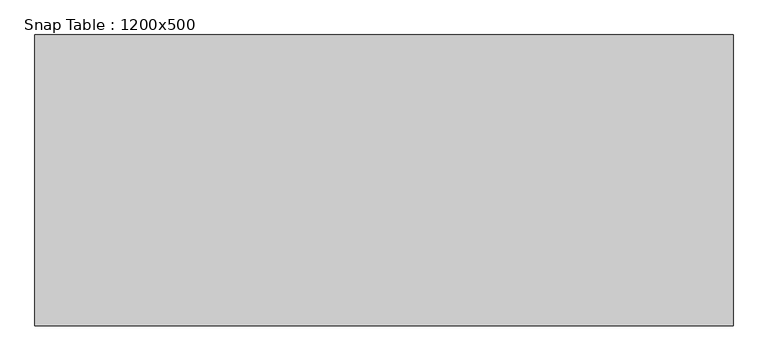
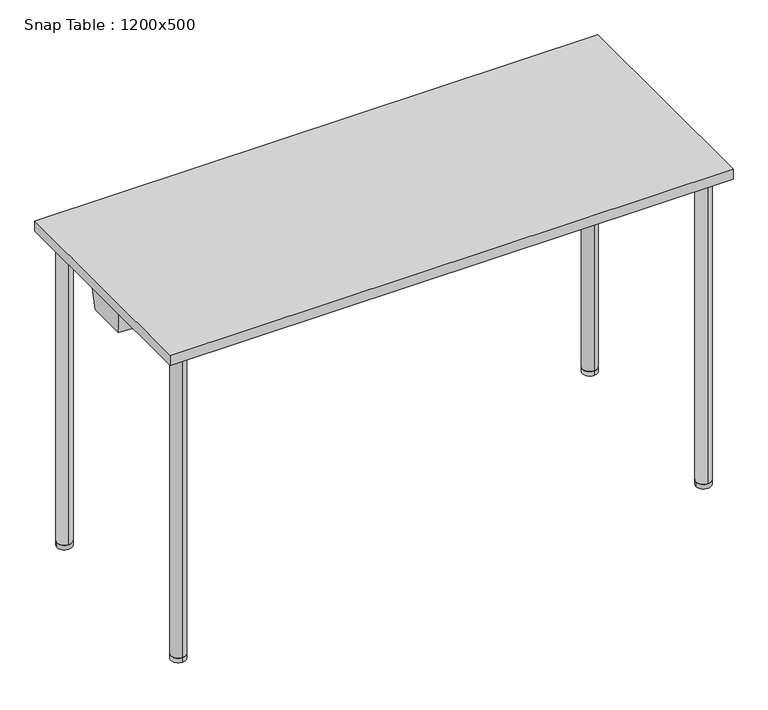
"""IFC4 building model written with IfcOpenShell, lengths in millimetres: furniture geometry, Snap Table : 1200x500."""

from ifc_helpers import new_model, si_unit, point, frame, frame_2d, origin, origin_with_axes, place, context, project, spatial, polyline, circle_curve, ellipse_curve, trimmed, segment, composite_curve, outline, extrude, faceted_brep, source, transform, mapped, element, save
from ifc_brep_helpers import plane_surface, cylinder_surface, revolved_surface, advanced_brep


def snap_table_1200x500_a2f1ae12(model_context):
    return source(origin(), model_context, "Body", "SolidModel", [
        extrude(outline(composite_curve([segment(trimmed(circle_curve(frame_2d((560.0, -210.0)), 16.0), [point((576.0, -210.0))], [point((544.0, -210.0))], False, "CARTESIAN"), True, "CONTINUOUS"), segment(trimmed(circle_curve(frame_2d((560.0, -210.0)), 16.0), [point((544.0, -210.0))], [point((576.0, -210.0))], False, "CARTESIAN"), True, "CONTINUOUS")], self_intersect=False)), origin_with_axes(), (0.0, 0.0, 1.0), 10.0),
        extrude(outline(composite_curve([segment(trimmed(circle_curve(frame_2d((560.0, 210.0)), 16.0), [point((560.0, 194.0))], [point((560.0, 226.0))], False, "CARTESIAN"), True, "CONTINUOUS"), segment(trimmed(circle_curve(frame_2d((560.0, 210.0)), 16.0), [point((560.0, 226.0))], [point((560.0, 194.0))], False, "CARTESIAN"), True, "CONTINUOUS")], self_intersect=False)), origin_with_axes(), (0.0, 0.0, 1.0), 10.0),
        advanced_brep(
        [(560.0, -226.0, 10.0), (560.0, -194.0, 10.0), (560.0, -226.0, 689.0), (560.0, -194.0, 657.0), (560.0, 226.0, 689.0), (560.0, 194.0, 657.0), (560.0, 226.0, 10.0), (560.0, 194.0, 10.0)],
        [
            (0, 1, circle_curve(frame((560.0, -210.0, 10.0), z_axis=(0.0, 0.0, -1.0), x_axis=(0.0, 1.0, 0.0)), 16.0)),
            (1, 0, circle_curve(frame((560.0, -210.0, 10.0), z_axis=(0.0, 0.0, -1.0), x_axis=(0.0, 1.0, 0.0)), 16.0)),
            (0, 2),
            (2, 3, ellipse_curve(frame((560.0, -210.0, 673.0), z_axis=(0.0, -0.7071067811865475, -0.7071067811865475), x_axis=(0.0, 0.7071067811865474, -0.7071067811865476)), 22.627417, 16.0)),
            (3, 1),
            (3, 2, ellipse_curve(frame((560.0, -210.0, 673.0), z_axis=(0.0, -0.7071067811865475, -0.7071067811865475), x_axis=(0.0, 0.7071067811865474, -0.7071067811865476)), 22.627417, 16.0)),
            (2, 4),
            (4, 5, ellipse_curve(frame((560.0, 210.0, 673.0), z_axis=(0.0, -0.7071067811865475, 0.7071067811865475), x_axis=(0.0, -0.7071067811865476, -0.7071067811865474)), 22.627417, 16.0)),
            (5, 3),
            (5, 4, ellipse_curve(frame((560.0, 210.0, 673.0), z_axis=(0.0, -0.7071067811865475, 0.7071067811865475), x_axis=(0.0, -0.7071067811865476, -0.7071067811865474)), 22.627417, 16.0)),
            (6, 7, circle_curve(frame((560.0, 210.0, 10.0), z_axis=(0.0, 0.0, -1.0), x_axis=(0.0, -1.0, 0.0)), 16.0)),
            (7, 6, circle_curve(frame((560.0, 210.0, 10.0), z_axis=(0.0, 0.0, -1.0), x_axis=(0.0, -1.0, 0.0)), 16.0)),
            (4, 6),
            (7, 5),
        ],
        [
            plane_surface(frame((560.0, -210.0, 10.0), z_axis=(0.0, 0.0, -1.0), x_axis=(-1.0, 0.0, 0.0))),
            cylinder_surface(frame((560.0, -210.0, 10.0), z_axis=(0.0, 0.0, -1.0), x_axis=(0.0, 1.0, 0.0)), 16.0),
            cylinder_surface(frame((560.0, -210.0, 673.0), z_axis=(0.0, -1.0, 0.0), x_axis=(0.0, 0.0, -1.0)), 16.0),
            plane_surface(frame((560.0, 210.0, 10.0), z_axis=(0.0, 0.0, -1.0), x_axis=(-1.0, 0.0, 0.0))),
            cylinder_surface(frame((560.0, 210.0, 673.0), z_axis=(0.0, 0.0, 1.0), x_axis=(0.0, -1.0, 0.0)), 16.0),
        ],
        [
            (0, [[1, 2]]),
            (1, [[-1, 3, 4, 5]]),
            (1, [[-2, -5, 6, -3]]),
            (2, [[-4, 7, 8, 9]]),
            (2, [[-6, -9, 10, -7]]),
            (3, [[11, 12]]),
            (4, [[-8, 13, -12, 14]]),
            (4, [[-10, -14, -11, -13]]),
        ],
    ),
        extrude(outline(composite_curve([segment(trimmed(circle_curve(frame_2d((-560.0470276, 210.0)), 16.0), [point((-576.0470276, 210.0))], [point((-544.0470276, 210.0))], False, "CARTESIAN"), True, "CONTINUOUS"), segment(trimmed(circle_curve(frame_2d((-560.0470276, 210.0)), 16.0), [point((-544.0470276, 210.0))], [point((-576.0470276, 210.0))], False, "CARTESIAN"), True, "CONTINUOUS")], self_intersect=False)), origin_with_axes(), (0.0, 0.0, 1.0), 10.0),
        extrude(outline(composite_curve([segment(trimmed(circle_curve(frame_2d((-560.0470276, -210.0)), 16.0), [point((-560.0470276, -194.0))], [point((-560.0470276, -226.0))], False, "CARTESIAN"), True, "CONTINUOUS"), segment(trimmed(circle_curve(frame_2d((-560.0470276, -210.0)), 16.0), [point((-560.0470276, -226.0))], [point((-560.0470276, -194.0))], False, "CARTESIAN"), True, "CONTINUOUS")], self_intersect=False)), origin_with_axes(), (0.0, 0.0, 1.0), 10.0),
        advanced_brep(
        [(-560.0470276, 226.0, 10.0), (-560.0470276, 194.0, 10.0), (-560.0470276, 226.0, 689.0), (-560.0470276, 194.0, 657.0), (-560.0470276, -226.0, 689.0), (-560.0470276, -194.0, 657.0), (-560.0470276, -226.0, 10.0), (-560.0470276, -194.0, 10.0)],
        [
            (0, 1, circle_curve(frame((-560.0470276, 210.0, 10.0), z_axis=(0.0, 0.0, -1.0), x_axis=(0.0, -1.0, 0.0)), 16.0)),
            (1, 0, circle_curve(frame((-560.0470276, 210.0, 10.0), z_axis=(0.0, 0.0, -1.0), x_axis=(0.0, -1.0, 0.0)), 16.0)),
            (0, 2),
            (2, 3, ellipse_curve(frame((-560.0470276, 210.0, 673.0), z_axis=(0.0, 0.7071067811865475, -0.7071067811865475), x_axis=(0.0, -0.7071067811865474, -0.7071067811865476)), 22.627417, 16.0)),
            (3, 1),
            (3, 2, ellipse_curve(frame((-560.0470276, 210.0, 673.0), z_axis=(0.0, 0.7071067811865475, -0.7071067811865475), x_axis=(0.0, -0.7071067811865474, -0.7071067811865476)), 22.627417, 16.0)),
            (2, 4),
            (4, 5, ellipse_curve(frame((-560.0470276, -210.0, 673.0), z_axis=(0.0, 0.7071067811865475, 0.7071067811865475), x_axis=(0.0, 0.7071067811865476, -0.7071067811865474)), 22.627417, 16.0)),
            (5, 3),
            (5, 4, ellipse_curve(frame((-560.0470276, -210.0, 673.0), z_axis=(0.0, 0.7071067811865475, 0.7071067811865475), x_axis=(0.0, 0.7071067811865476, -0.7071067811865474)), 22.627417, 16.0)),
            (6, 7, circle_curve(frame((-560.0470276, -210.0, 10.0), z_axis=(0.0, 0.0, -1.0), x_axis=(0.0, 1.0, 0.0)), 16.0)),
            (7, 6, circle_curve(frame((-560.0470276, -210.0, 10.0), z_axis=(0.0, 0.0, -1.0), x_axis=(0.0, 1.0, 0.0)), 16.0)),
            (4, 6),
            (7, 5),
        ],
        [
            plane_surface(frame((-560.0470276, 210.0, 10.0), z_axis=(0.0, 0.0, -1.0), x_axis=(1.0, 0.0, 0.0))),
            cylinder_surface(frame((-560.0470276, 210.0, 10.0), z_axis=(0.0, 0.0, -1.0), x_axis=(0.0, -1.0, 0.0)), 16.0),
            cylinder_surface(frame((-560.0470276, 210.0, 673.0), z_axis=(0.0, 1.0, 0.0), x_axis=(0.0, 0.0, -1.0)), 16.0),
            plane_surface(frame((-560.0470276, -210.0, 10.0), z_axis=(0.0, 0.0, -1.0), x_axis=(1.0, 0.0, 0.0))),
            cylinder_surface(frame((-560.0470276, -210.0, 673.0), z_axis=(0.0, 0.0, 1.0), x_axis=(0.0, 1.0, 0.0)), 16.0),
        ],
        [
            (0, [[1, 2]]),
            (1, [[-1, 3, 4, 5]]),
            (1, [[-2, -5, 6, -3]]),
            (2, [[-4, 7, 8, 9]]),
            (2, [[-6, -9, 10, -7]]),
            (3, [[11, 12]]),
            (4, [[-8, 13, -12, 14]]),
            (4, [[-10, -14, -11, -13]]),
        ],
    ),
        extrude(outline(polyline([(600.0, 250.0), (600.0, -250.0), (-600.0, -250.0), (-600.0, 250.0), (600.0, 250.0)])), frame((0.0, 0.0, 698.0), z_axis=(0.0, 0.0, 1.0), x_axis=(1.0, 0.0, 0.0)), (0.0, 0.0, 1.0), 22.0),
        advanced_brep(
        [(-590.8110657, 42.2236058, 643.0), (-557.6910354, 44.5767873, 643.0), (-540.5708933, 36.0824003, 643.0), (540.5710292, 36.0824678, 643.0), (557.6910354, 44.5767873, 643.0), (590.8110657, 42.2236058, 643.0), (590.8110657, -42.2236058, 643.0), (557.6044607, -44.2417031, 643.0), (540.4018781, -36.0497649, 643.0), (-540.4020196, -36.0498323, 643.0), (-557.6044607, -44.2417031, 643.0), (-590.8110657, -42.2236058, 643.0), (-594.8110657, 48.9570516, 698.0), (-594.8110657, -48.9934252, 698.0), (-556.225892, -51.3383995, 698.0), (-534.6205129, -41.049832, 698.0), (534.6203726, -41.0497653, 698.0), (556.225892, -51.3383995, 698.0), (594.8110657, -48.9934252, 698.0), (594.8110657, 48.9570516, 698.0), (556.286594, 51.6942192, 698.0), (534.8989768, 41.0824675, 698.0), (-534.8988421, 41.0824007, 698.0), (-556.286594, 51.6942192, 698.0), (-557.2475737, -46.0789118, 657.2385232), (-576.0, -46.9489596, 673.0), (-556.4614069, -50.125999, 688.6037931), (-544.0, -41.9922101, 673.0), (557.2475737, -46.0789118, 657.2385232), (544.0, -41.9922101, 673.0), (556.4614069, -50.125999, 688.6037931), (576.0, -46.9489596, 673.0), (557.3278029, 46.4175782, 657.2247231), (576.0, 47.1037405, 673.0), (556.5261576, 50.4801582, 688.618336), (544.0, 42.0461233, 673.0), (-557.3278029, 46.4175782, 657.2247231), (-544.0, 42.0461233, 673.0), (-556.5261576, 50.4801582, 688.618336), (-576.0, 47.1037405, 673.0)],
        [
            (0, 1),
            (1, 2),
            (2, 3),
            (3, 4),
            (4, 5),
            (5, 6),
            (6, 7),
            (7, 8),
            (8, 9),
            (9, 10),
            (10, 11),
            (11, 0),
            (12, 13),
            (13, 14),
            (14, 15),
            (15, 16),
            (16, 17),
            (17, 18),
            (18, 19),
            (19, 20),
            (20, 21),
            (21, 22),
            (22, 23),
            (23, 12),
            (11, 13),
            (12, 0),
            (10, 24),
            (24, 25, ellipse_curve(frame((-560.0, -47.9213432, 673.0), z_axis=(0.060176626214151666, 0.9901710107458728, 0.12625427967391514), x_axis=(0.42602826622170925, -0.13986196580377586, 0.893833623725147)), 16.1588249, 16.0)),
            (25, 26, ellipse_curve(frame((-560.0, -47.9213432, 673.0), z_axis=(0.060176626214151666, 0.9901710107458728, 0.12625427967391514), x_axis=(0.42602826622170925, -0.13986196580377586, 0.893833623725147)), 16.1588249, 16.0)),
            (26, 14),
            (9, 15),
            (26, 27, ellipse_curve(frame((-560.0, -49.6114737, 673.0), z_axis=(-0.426503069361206, 0.895631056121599, 0.1262542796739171), x_axis=(-0.8587935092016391, -0.4447977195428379, 0.2542217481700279)), 17.8644989, 16.0)),
            (27, 24, ellipse_curve(frame((-560.0, -49.6114737, 673.0), z_axis=(-0.426503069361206, 0.895631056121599, 0.1262542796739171), x_axis=(-0.8587935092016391, -0.4447977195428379, 0.2542217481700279)), 17.8644989, 16.0)),
            (8, 16),
            (7, 28),
            (28, 29, ellipse_curve(frame((560.0, -49.6114737, 673.0), z_axis=(0.42650306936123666, 0.8956310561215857, 0.1262542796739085), x_axis=(0.858793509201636, -0.4447977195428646, 0.2542217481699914)), 17.8644989, 16.0)),
            (29, 30, ellipse_curve(frame((560.0, -49.6114737, 673.0), z_axis=(0.42650306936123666, 0.8956310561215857, 0.1262542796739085), x_axis=(0.858793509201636, -0.4447977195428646, 0.2542217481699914)), 17.8644989, 16.0)),
            (30, 17),
            (6, 18),
            (30, 31, ellipse_curve(frame((560.0, -47.9213432, 673.0), z_axis=(-0.06017662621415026, 0.9901710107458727, 0.1262542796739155), x_axis=(-0.4260282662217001, -0.13986196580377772, 0.8938336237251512)), 16.1588249, 16.0)),
            (31, 28, ellipse_curve(frame((560.0, -47.9213432, 673.0), z_axis=(-0.06017662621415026, 0.9901710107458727, 0.1262542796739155), x_axis=(-0.4260282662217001, -0.13986196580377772, 0.8938336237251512)), 16.1588249, 16.0)),
            (5, 19),
            (4, 32),
            (32, 33, ellipse_curve(frame((560.0, 48.2405422, 673.0), z_axis=(-0.07030432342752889, -0.9895034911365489, 0.1262542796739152), x_axis=(0.48139832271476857, -0.14450896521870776, -0.8645072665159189)), 16.1697257, 16.0)),
            (33, 34, ellipse_curve(frame((560.0, 48.2405422, 673.0), z_axis=(-0.07030432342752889, -0.9895034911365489, 0.1262542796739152), x_axis=(0.48139832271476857, -0.14450896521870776, -0.8645072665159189)), 16.1697257, 16.0)),
            (34, 20),
            (3, 21),
            (34, 35, ellipse_curve(frame((560.0, 49.9847369, 673.0), z_axis=(0.44090536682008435, -0.8886294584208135, 0.12625427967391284), x_axis=(-0.8542943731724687, -0.45862586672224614, -0.24462918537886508)), 18.005255, 16.0)),
            (35, 32, ellipse_curve(frame((560.0, 49.9847369, 673.0), z_axis=(0.44090536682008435, -0.8886294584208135, 0.12625427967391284), x_axis=(-0.8542943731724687, -0.45862586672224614, -0.24462918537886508)), 18.005255, 16.0)),
            (2, 22),
            (1, 36),
            (36, 37, ellipse_curve(frame((-560.0, 49.9847369, 673.0), z_axis=(-0.4409053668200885, -0.8886294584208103, 0.12625427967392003), x_axis=(0.8542943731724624, -0.45862586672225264, -0.24462918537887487)), 18.005255, 16.0)),
            (37, 38, ellipse_curve(frame((-560.0, 49.9847369, 673.0), z_axis=(-0.4409053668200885, -0.8886294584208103, 0.12625427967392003), x_axis=(0.8542943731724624, -0.45862586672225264, -0.24462918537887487)), 18.005255, 16.0)),
            (38, 23),
            (38, 39, ellipse_curve(frame((-560.0, 48.2405422, 673.0), z_axis=(0.07030432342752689, -0.9895034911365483, 0.1262542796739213), x_axis=(-0.48139832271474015, -0.1445089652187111, -0.8645072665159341)), 16.1697257, 16.0)),
            (39, 36, ellipse_curve(frame((-560.0, 48.2405422, 673.0), z_axis=(0.07030432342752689, -0.9895034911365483, 0.1262542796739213), x_axis=(-0.48139832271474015, -0.1445089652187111, -0.8645072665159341)), 16.1697257, 16.0)),
            (35, 29),
            (31, 33),
            (39, 25),
            (27, 37),
        ],
        [
            plane_surface(frame((-5e-07, 0.0612866, 643.0), z_axis=(0.0, 0.0, -1.0), x_axis=(0.0, -1.0, 0.0))),
            plane_surface(frame((-5e-07, 0.0586803, 698.0), z_axis=(0.0, 0.0, 1.0), x_axis=(0.0, -1.0, 0.0))),
            plane_surface(frame((-594.8110657, -0.0181868, 698.0), z_axis=(-0.9973658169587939, 0.0, -0.07253569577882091), x_axis=(0.0, 1.0, 0.0))),
            plane_surface(frame((-575.5184789, -50.1659123, 698.0), z_axis=(-0.060176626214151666, -0.9901710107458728, -0.12625427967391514), x_axis=(-0.9981583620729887, 0.06066204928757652, 0.0))),
            plane_surface(frame((-545.4232025, -46.1941158, 698.0), z_axis=(0.426503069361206, -0.895631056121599, -0.1262542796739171), x_axis=(-0.9028557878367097, -0.4299435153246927, 0.0))),
            plane_surface(frame((-7.01e-05, -41.0497986, 698.0), z_axis=(6.211245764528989e-08, -0.9958932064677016, -0.09053574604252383), x_axis=(-0.9999999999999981, -6.236859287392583e-08, 0.0))),
            plane_surface(frame((545.4231323, -46.1940824, 698.0), z_axis=(-0.42650306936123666, -0.8956310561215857, -0.1262542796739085), x_axis=(-0.9028557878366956, 0.4299435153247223, 0.0))),
            plane_surface(frame((575.5184789, -50.1659123, 698.0), z_axis=(0.06017662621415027, -0.9901710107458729, -0.12625427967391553), x_axis=(-0.9981583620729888, -0.060662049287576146, 0.0))),
            plane_surface(frame((594.8110657, -0.0181868, 698.0), z_axis=(0.9973658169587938, 0.0, -0.07253569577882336), x_axis=(0.0, -1.0, 0.0))),
            plane_surface(frame((575.5488298, 50.3256354, 698.0), z_axis=(0.07030432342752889, 0.9895034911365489, -0.1262542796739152), x_axis=(0.9974854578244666, -0.07087144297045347, 0.0))),
            plane_surface(frame((545.5927854, 46.3883433, 698.0), z_axis=(-0.44090536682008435, 0.8886294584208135, -0.12625427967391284), x_axis=(0.8957977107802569, 0.44446199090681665, 0.0))),
            plane_surface(frame((6.73e-05, 41.082434, 698.0), z_axis=(-6.210942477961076e-08, 0.995893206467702, -0.09053574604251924), x_axis=(0.9999999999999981, 6.236554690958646e-08, 0.0))),
            plane_surface(frame((-545.5927181, 46.3883099, 698.0), z_axis=(0.44090536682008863, 0.8886294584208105, -0.12625427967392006), x_axis=(0.8957977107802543, -0.4444619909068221, 0.0))),
            plane_surface(frame((-575.5488298, 50.3256354, 698.0), z_axis=(-0.07030432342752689, 0.9895034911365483, -0.1262542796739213), x_axis=(0.9974854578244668, 0.07087144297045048, 0.0))),
            revolved_surface(polyline([(576.0, -57.55756207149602, 673.0), (576.0, 58.242412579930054, 673.0)]), (560.0, 70.0, 673.0), (0.0, -1.0, 0.0)),
            revolved_surface(polyline([(-576.0, -57.55756207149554, 673.0), (-576.0, 58.242412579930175, 673.0)]), (-560.0, 70.0, 673.0), (0.0, -1.0, 0.0)),
        ],
        [
            (0, [[1, 2, 3, 4, 5, 6, 7, 8, 9, 10, 11, 12]]),
            (1, [[13, 14, 15, 16, 17, 18, 19, 20, 21, 22, 23, 24]]),
            (2, [[-12, 25, -13, 26]]),
            (3, [[-11, 27, 28, 29, 30, -14, -25]]),
            (4, [[-10, 31, -15, -30, 32, 33, -27]]),
            (5, [[-9, 34, -16, -31]]),
            (6, [[-8, 35, 36, 37, 38, -17, -34]]),
            (7, [[-7, 39, -18, -38, 40, 41, -35]]),
            (8, [[-6, 42, -19, -39]]),
            (9, [[-5, 43, 44, 45, 46, -20, -42]]),
            (10, [[-4, 47, -21, -46, 48, 49, -43]]),
            (11, [[-3, 50, -22, -47]]),
            (12, [[-2, 51, 52, 53, 54, -23, -50]]),
            (13, [[-1, -26, -24, -54, 55, 56, -51]]),
            (14, [[57, -36, -41, 58, -44, -49]]),
            (14, [[-57, -48, -45, -58, -40, -37]]),
            (15, [[59, -28, -33, 60, -52, -56]]),
            (15, [[-59, -55, -53, -60, -32, -29]]),
        ],
    ),
        faceted_brep([(530.1271057, 132.1409864, 643.0), (530.1271057, 177.0366315, 643.0), (541.3990784, 177.0366315, 643.0), (541.3990784, 132.1409864, 643.0), (526.2186584, 128.0138349, 688.0), (544.2631531, 128.0138349, 688.0), (544.2631531, 181.163783, 688.0), (526.2186584, 181.163783, 688.0)], [[[0, 1, 2, 3]], [[4, 5, 6, 7]], [[5, 4, 0, 3]], [[6, 5, 3, 2]], [[7, 6, 2, 1]], [[4, 7, 1, 0]]]),
        extrude(outline(polyline([(526.2186584, 181.163783), (577.86026, 181.163783), (577.86026, 128.0138349), (526.2186584, 128.0138349), (526.2186584, 181.163783)])), frame((0.0, 0.0, 688.0), z_axis=(0.0, 0.0, 1.0), x_axis=(1.0, 0.0, 0.0)), (0.0, 0.0, 1.0), 10.0),
        faceted_brep([(530.1271057, -132.1409864, 643.0), (541.3990784, -132.1409864, 643.0), (541.3990784, -177.0366315, 643.0), (530.1271057, -177.0366315, 643.0), (526.2186584, -128.0138349, 688.0), (526.2186584, -181.163783, 688.0), (544.2631531, -181.163783, 688.0), (544.2631531, -128.0138349, 688.0)], [[[0, 1, 2, 3]], [[4, 5, 6, 7]], [[4, 7, 1, 0]], [[7, 6, 2, 1]], [[6, 5, 3, 2]], [[5, 4, 0, 3]]]),
        extrude(outline(polyline([(526.2186584, -181.163783), (526.2186584, -128.0138349), (577.86026, -128.0138349), (577.86026, -181.163783), (526.2186584, -181.163783)])), frame((0.0, 0.0, 688.0), z_axis=(0.0, 0.0, 1.0), x_axis=(1.0, 0.0, 0.0)), (0.0, 0.0, 1.0), 10.0),
        faceted_brep([(-530.1271057, 132.1409864, 643.0), (-541.3990784, 132.1409864, 643.0), (-541.3990784, 177.0366315, 643.0), (-530.1271057, 177.0366315, 643.0), (-526.2186584, 128.0138349, 688.0), (-526.2186584, 181.163783, 688.0), (-544.2631531, 181.163783, 688.0), (-544.2631531, 128.0138349, 688.0)], [[[0, 1, 2, 3]], [[4, 5, 6, 7]], [[4, 7, 1, 0]], [[7, 6, 2, 1]], [[6, 5, 3, 2]], [[5, 4, 0, 3]]]),
        extrude(outline(polyline([(-526.2186584, 181.163783), (-526.2186584, 128.0138349), (-577.86026, 128.0138349), (-577.86026, 181.163783), (-526.2186584, 181.163783)])), frame((0.0, 0.0, 688.0), z_axis=(0.0, 0.0, 1.0), x_axis=(1.0, 0.0, 0.0)), (0.0, 0.0, 1.0), 10.0),
        faceted_brep([(-530.1271057, -132.1409864, 643.0), (-530.1271057, -177.0366315, 643.0), (-541.3990784, -177.0366315, 643.0), (-541.3990784, -132.1409864, 643.0), (-526.2186584, -128.0138349, 688.0), (-544.2631531, -128.0138349, 688.0), (-544.2631531, -181.163783, 688.0), (-526.2186584, -181.163783, 688.0)], [[[0, 1, 2, 3]], [[4, 5, 6, 7]], [[5, 4, 0, 3]], [[6, 5, 3, 2]], [[7, 6, 2, 1]], [[4, 7, 1, 0]]]),
        extrude(outline(polyline([(-526.2186584, -181.163783), (-577.86026, -181.163783), (-577.86026, -128.0138349), (-526.2186584, -128.0138349), (-526.2186584, -181.163783)])), frame((0.0, 0.0, 688.0), z_axis=(0.0, 0.0, 1.0), x_axis=(1.0, 0.0, 0.0)), (0.0, 0.0, 1.0), 10.0),
    ])


if __name__ == "__main__":
    model = new_model("IFC4")
    model_context = context("Model", 3, world=origin())
    ifc_project = project(units=[si_unit("LENGTHUNIT", "METRE", prefix="MILLI")], contexts=[model_context])
    site = spatial("IfcSite", under=ifc_project)
    building = spatial("IfcBuilding", under=site)
    placement = place(None, origin())
    snap_table_1200x500_shape = snap_table_1200x500_a2f1ae12(model_context)
    element("IfcFurniture", 1, ObjectType="Snap Table : 1200x500", at=placement, inside=building, context=model_context, shape_type="MappedRepresentation", body=[
        mapped(snap_table_1200x500_shape, transform((0.0, 0.0, 0.0), x_axis=(1.0, 0.0, 0.0), y_axis=(0.0, 1.0, 0.0), z_axis=(0.0, 0.0, 1.0))),
    ])
    save(model, "model.ifc")
